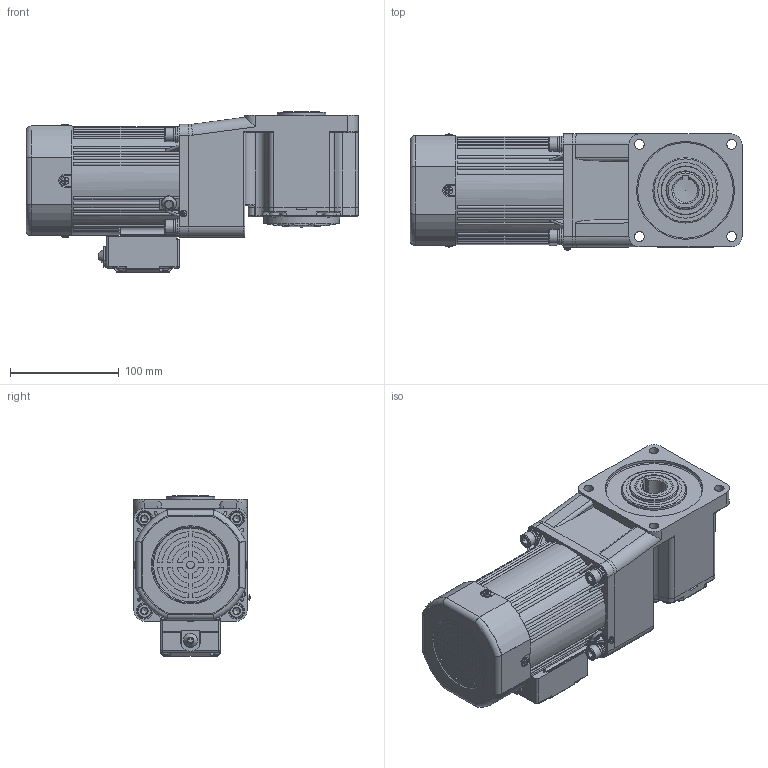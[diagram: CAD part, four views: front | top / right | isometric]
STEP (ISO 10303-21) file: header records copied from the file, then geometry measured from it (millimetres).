
FILE_DESCRIPTION(/* description */ (''),/* implementation_level */ '2;1');
FILE_NAME(/* name */ '100+直角中空-调速风叶-120-140W 新版长款接线盒.stp',/* time_stamp */ '2025-04-07T19:48:32+08:00',/* author */ (''),/* organization */ (''),/* preprocessor_version */ 'ST-DEVELOPER v18.102',/* originating_system */ 'SIEMENS PLM Software NX 2027',/* authorisation */ '');
FILE_SCHEMA (('AP203_CONFIGURATION_CONTROLLED_3D_DESIGN_OF_MECHANICAL_PARTS_AND_ASSEMBLIES_MIM_LF { 1 0 10303 403 2 1 2}'));
Products named in the file (1): 100+直角中空-调速风叶-120
-140W 新版_stp_objects
Bounding box: 305.5 x 106.83 x 147.5 mm (x, y, z)
Volume: 2952703.6 mm3; surface area: 430759.5 mm2
Topology: 25 solids, 25 shells, 2499 faces, 6513 edges, 4179 vertices
Faces by surface type: plane 1108, cylinder 813, bspline 223, torus 168, cone 141, sphere 46
Full cylindrical faces by diameter (mm): 2.2 x2, 2.5 x2, 2.6 x2, 2.7 x1, 2.9 x4, 3 x15, 3.2 x2, 3.3 x2, 3.5 x8, 3.6 x4, 4 x4, 4.2 x1, 4.55 x2, 4.8 x1, 5.1 x2, 5.15 x2, 5.6 x4, 6 x12, 6.8 x12, 7 x3, 7.5 x1, 7.76 x4, 8 x1, 8.4 x4, 9 x13, 9.3 x1, 9.5 x4, 10 x2, 13 x4, 14 x8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
Entity records: 77057 total; most frequent: CARTESIAN_POINT 18608, ORIENTED_EDGE 11920, DIRECTION 11720, EDGE_CURVE 5960, AXIS2_PLACEMENT_3D 4527, VERTEX_POINT 4003, EDGE_LOOP 3080, LINE 2666
